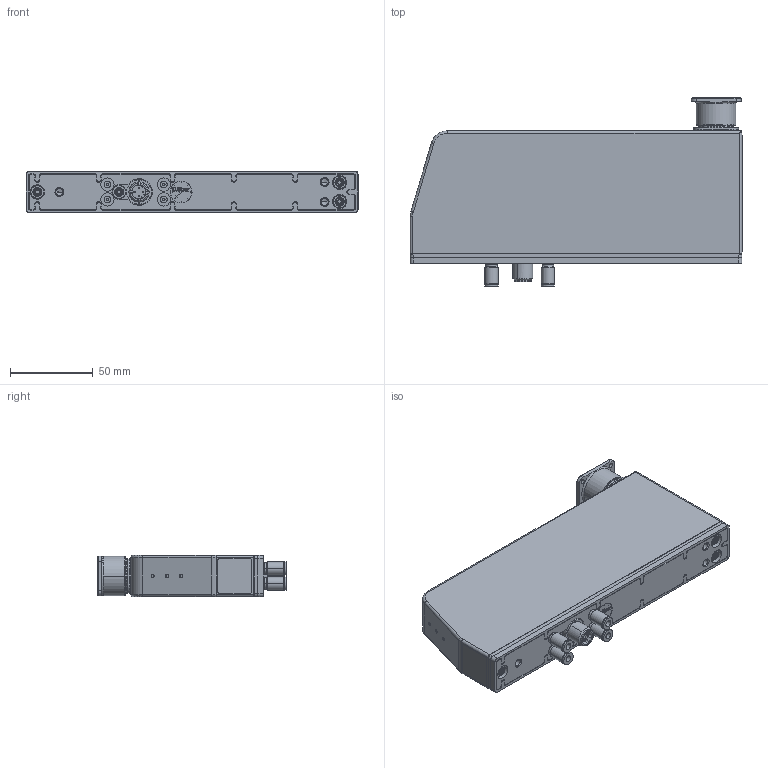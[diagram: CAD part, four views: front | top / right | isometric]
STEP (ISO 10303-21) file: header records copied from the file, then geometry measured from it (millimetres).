
FILE_DESCRIPTION((''),'2;1');
FILE_NAME('STEP_CUSTOMER_SW0001','2018-08-24T',('scheu-1'),(''),'PRO/ENGINEER BY PARAMETRIC TECHNOLOGY CORPORATION, 2016240','PRO/ENGINEER BY PARAMETRIC TECHNOLOGY CORPORATION, 2016240','');
FILE_SCHEMA(('CONFIG_CONTROL_DESIGN'));
Length unit declared in the file: millimetre
Products named in the file (1): STEP_CUSTOMER_SW0001
Bounding box: 200.2 x 113.7 x 25 mm (x, y, z)
Volume: 401262.9 mm3; surface area: 52420.7 mm2
Topology: 1 solids, 1 shells, 995 faces, 2663 edges, 1713 vertices
Faces by surface type: plane 495, cylinder 342, cone 104, torus 44, bspline 10
Entity records: 33495 total; most frequent: CARTESIAN_POINT 8052, DIRECTION 5377, ORIENTED_EDGE 5314, EDGE_CURVE 2657, AXIS2_PLACEMENT_3D 1870, VERTEX_POINT 1713, VECTOR 1637, LINE 1637
